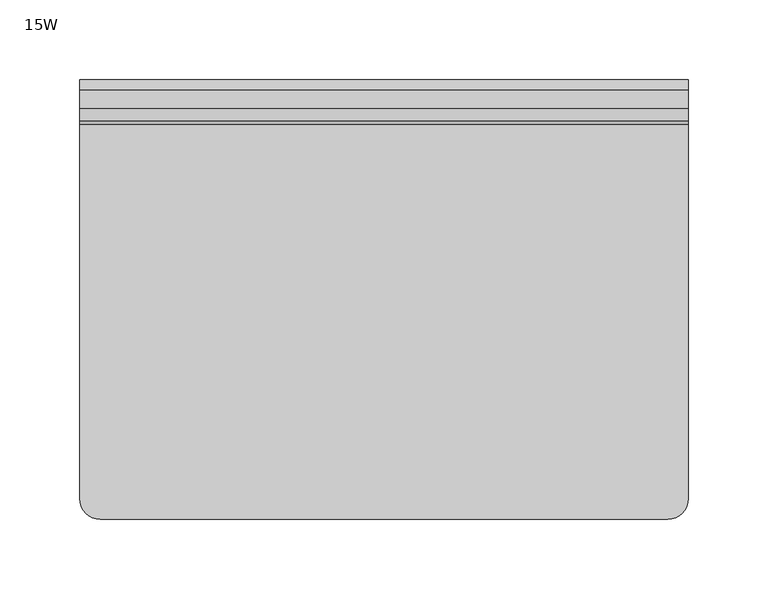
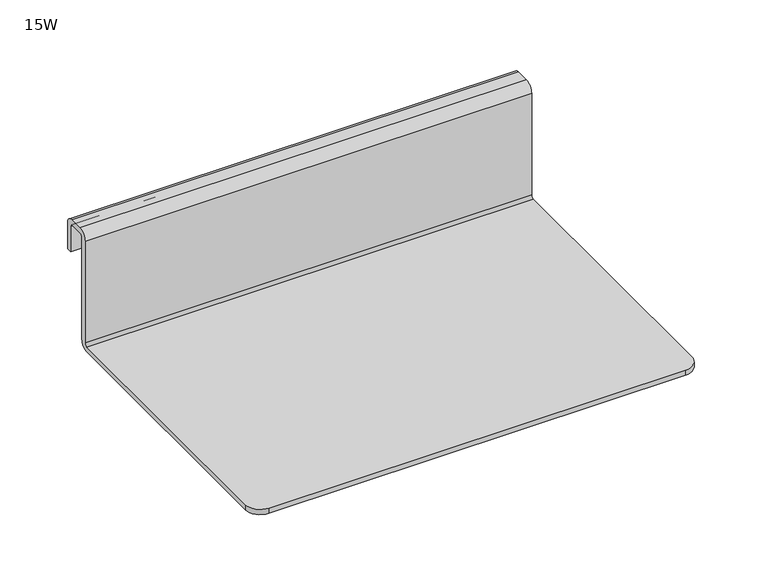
"""IFC4 building model written with IfcOpenShell, lengths in millimetres: furniture geometry, Steelcase Coalesse - Exponents - Storage - Mobile Display Board - Shelf : 15W."""

from ifc_helpers import new_model, si_unit, point, frame, frame_2d, origin, place, context, project, spatial, polyline, circle_curve, trimmed, segment, composite_curve, outline, extrude, source, transform, mapped, element, save
from ifc_brep_helpers import plane_surface, cylinder_surface, revolved_surface, advanced_brep


def furniture_15w_4930ab59(model_context):
    return source(origin(), model_context, "Body", "SolidModel", [
        advanced_brep(
        [(419.3198077, 213.6292868, 759.9172), (432.0198077, 200.9292868, 759.9172), (787.6198077, 200.9292868, 759.9172), (800.3198077, 213.6292868, 759.9172), (800.3198077, 447.8172868, 759.9172), (419.3198077, 447.8172868, 759.9172), (800.3198077, 213.6292868, 755.3452), (787.6198077, 200.9292868, 755.3452), (432.0198077, 200.9292868, 755.3452), (419.3198077, 213.6292868, 755.3452), (419.3198077, 447.4357043, 755.3452), (800.3198077, 447.4357043, 755.3452), (419.3198077, 450.3572868, 762.4572), (419.3198077, 450.3572868, 853.9888371), (419.3198077, 457.8856311, 861.5171814), (419.3198077, 469.6612868, 861.5171814), (419.3198077, 476.0112868, 855.1671814), (419.3198077, 476.0112868, 831.5451736), (419.3198077, 471.4392868, 831.5451736), (419.3198077, 471.4392868, 854.4052), (419.3198077, 468.8992868, 856.9452), (419.3198077, 457.4692867, 856.9452), (419.3198077, 454.9292867, 854.4052), (419.3198077, 454.9292867, 762.8387825), (800.3198077, 454.9292867, 762.8387825), (800.3198077, 454.9292867, 854.4052), (800.3198077, 457.4692867, 856.9452), (800.3198077, 468.8992868, 856.9452), (800.3198077, 471.4392868, 854.4052), (800.3198077, 471.4392868, 831.5451736), (800.3198077, 476.0112868, 831.5451736), (800.3198077, 476.0112868, 855.1671814), (800.3198077, 469.6612868, 861.5171814), (800.3198077, 457.8856311, 861.5171814), (800.3198077, 450.3572868, 853.9888371), (800.3198077, 450.3572868, 762.4572)],
        [
            (0, 1, circle_curve(frame((432.0198077, 213.6292868, 759.9172), z_axis=(0.0, 0.0, 1.0), x_axis=(1.0, 0.0, 0.0)), 12.7)),
            (1, 2),
            (2, 3, circle_curve(frame((787.6198077, 213.6292868, 759.9172), z_axis=(0.0, 0.0, 1.0), x_axis=(1.0, 0.0, 0.0)), 12.7)),
            (3, 4),
            (4, 5),
            (5, 0),
            (6, 7, circle_curve(frame((787.6198077, 213.6292868, 755.3452), z_axis=(0.0, 0.0, -1.0), x_axis=(1.0, 0.0, 0.0)), 12.7)),
            (7, 8),
            (8, 9, circle_curve(frame((432.0198077, 213.6292868, 755.3452), z_axis=(0.0, 0.0, -1.0), x_axis=(1.0, 0.0, 0.0)), 12.7)),
            (9, 10),
            (10, 11),
            (11, 6),
            (5, 12, circle_curve(frame((419.3198077, 447.8172868, 762.4572), z_axis=(1.0, 0.0, 0.0), x_axis=(0.0, 1.0, 0.0)), 2.54)),
            (12, 13),
            (13, 14, circle_curve(frame((419.3198077, 457.8856311, 853.9888371), z_axis=(-1.0, 0.0, 0.0), x_axis=(0.0, 1.0, 0.0)), 7.5283443)),
            (14, 15),
            (15, 16, circle_curve(frame((419.3198077, 469.6612868, 855.1671814), z_axis=(-1.0, 0.0, 0.0), x_axis=(0.0, 1.0, 0.0)), 6.35)),
            (16, 17),
            (17, 18),
            (18, 19),
            (19, 20, circle_curve(frame((419.3198077, 468.8992868, 854.4052), z_axis=(1.0, 0.0, 0.0), x_axis=(0.0, 1.0, 0.0)), 2.54)),
            (20, 21),
            (21, 22, circle_curve(frame((419.3198077, 457.4692867, 854.4052), z_axis=(1.0, 0.0, 0.0), x_axis=(0.0, 1.0, 0.0)), 2.54)),
            (22, 23),
            (23, 10, circle_curve(frame((419.3198077, 447.4357043, 762.8387825), z_axis=(-1.0, 0.0, 0.0), x_axis=(0.0, 1.0, 0.0)), 7.4935825)),
            (9, 0),
            (8, 1),
            (7, 2),
            (6, 3),
            (11, 24, circle_curve(frame((800.3198077, 447.4357043, 762.8387825), z_axis=(1.0, 0.0, 0.0), x_axis=(0.0, 1.0, 0.0)), 7.4935825)),
            (24, 25),
            (25, 26, circle_curve(frame((800.3198077, 457.4692867, 854.4052), z_axis=(-1.0, 0.0, 0.0), x_axis=(0.0, 1.0, 0.0)), 2.54)),
            (26, 27),
            (27, 28, circle_curve(frame((800.3198077, 468.8992868, 854.4052), z_axis=(-1.0, 0.0, 0.0), x_axis=(0.0, 1.0, 0.0)), 2.54)),
            (28, 29),
            (29, 30),
            (30, 31),
            (31, 32, circle_curve(frame((800.3198077, 469.6612868, 855.1671814), z_axis=(1.0, 0.0, 0.0), x_axis=(0.0, 1.0, 0.0)), 6.35)),
            (32, 33),
            (33, 34, circle_curve(frame((800.3198077, 457.8856311, 853.9888371), z_axis=(1.0, 0.0, 0.0), x_axis=(0.0, 1.0, 0.0)), 7.5283443)),
            (34, 35),
            (35, 4, circle_curve(frame((800.3198077, 447.8172868, 762.4572), z_axis=(-1.0, 0.0, 0.0), x_axis=(0.0, 1.0, 0.0)), 2.54)),
            (33, 14),
            (13, 34),
            (12, 35),
            (23, 24),
            (22, 25),
            (21, 26),
            (20, 27),
            (19, 28),
            (18, 29),
            (17, 30),
            (16, 31),
            (15, 32),
        ],
        [
            plane_surface(frame((419.3198077, 223.4607924, 759.9172), z_axis=(0.0, 0.0, 1.0), x_axis=(-1.0, 0.0, 0.0))),
            plane_surface(frame((419.3198077, 223.4607924, 755.3452), z_axis=(0.0, 0.0, -1.0), x_axis=(1.0, 0.0, 0.0))),
            plane_surface(frame((419.3198077, 223.4607924, 759.9172), z_axis=(-1.0, 0.0, 0.0), x_axis=(0.0, 0.0, -1.0))),
            cylinder_surface(frame((432.0198077, 213.6292868, 755.3452), z_axis=(0.0, 0.0, 1.0), x_axis=(1.0, 0.0, 0.0)), 12.7),
            plane_surface(frame((432.0198077, 200.9292868, 759.9172), z_axis=(0.0, -1.0, 0.0), x_axis=(0.0, 0.0, -1.0))),
            cylinder_surface(frame((787.6198077, 213.6292868, 755.3452), z_axis=(0.0, 0.0, 1.0), x_axis=(1.0, 0.0, 0.0)), 12.7),
            plane_surface(frame((800.3198077, 213.6292868, 759.9172), z_axis=(1.0, 0.0, 0.0), x_axis=(0.0, 0.0, -1.0))),
            cylinder_surface(frame((419.3198077, 457.8856311, 853.9888371), z_axis=(1.0, 0.0, 0.0), x_axis=(0.0, 1.0, 0.0)), 7.5283443),
            plane_surface(frame((800.3198077, 450.3572868, 853.9888371), z_axis=(0.0, -1.0, 0.0), x_axis=(-1.0, 0.0, 0.0))),
            revolved_surface(polyline([(419.3198077, 450.3572868, 762.4572), (800.3198077, 450.3572868, 762.4572)]), (419.3198077, 447.8172868, 762.4572), (-1.0, 0.0, 0.0)),
            cylinder_surface(frame((419.3198077, 447.4357043, 762.8387825), z_axis=(1.0, 0.0, 0.0), x_axis=(0.0, 1.0, 0.0)), 7.4935825),
            plane_surface(frame((800.3198077, 454.9292867, 762.8387825), z_axis=(0.0, 1.0, 0.0), x_axis=(-1.0, 0.0, 0.0))),
            revolved_surface(polyline([(419.3198077, 460.0092867, 854.4052), (800.3198077, 460.0092867, 854.4052)]), (419.3198077, 457.4692867, 854.4052), (-1.0, 0.0, 0.0)),
            plane_surface(frame((800.3198077, 457.4692867, 856.9452), z_axis=(0.0, 0.0, -1.0), x_axis=(-1.0, 0.0, 0.0))),
            revolved_surface(polyline([(419.3198077, 471.43928680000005, 854.4052), (800.3198077, 471.43928680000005, 854.4052)]), (419.3198077, 468.8992868, 854.4052), (-1.0, 0.0, 0.0)),
            plane_surface(frame((800.3198077, 471.4392868, 854.4052), z_axis=(0.0, -1.0, 0.0), x_axis=(-1.0, 0.0, 0.0))),
            plane_surface(frame((800.3198077, 471.4392868, 831.5451736), z_axis=(0.0, 0.0, -1.0), x_axis=(-1.0, 0.0, 0.0))),
            plane_surface(frame((800.3198077, 476.0112868, 831.5451736), z_axis=(0.0, 1.0, 0.0), x_axis=(-1.0, 0.0, 0.0))),
            cylinder_surface(frame((419.3198077, 469.6612868, 855.1671814), z_axis=(1.0, 0.0, 0.0), x_axis=(0.0, 1.0, 0.0)), 6.35),
            plane_surface(frame((800.3198077, 469.6612868, 861.5171814), z_axis=(0.0, 0.0, 1.0), x_axis=(-1.0, 0.0, 0.0))),
        ],
        [
            (0, [[1, 2, 3, 4, 5, 6]]),
            (1, [[7, 8, 9, 10, 11, 12]]),
            (2, [[-6, 13, 14, 15, 16, 17, 18, 19, 20, 21, 22, 23, 24, 25, -10, 26]]),
            (3, [[-1, -26, -9, 27]]),
            (4, [[-2, -27, -8, 28]]),
            (5, [[-3, -28, -7, 29]]),
            (6, [[-4, -29, -12, 30, 31, 32, 33, 34, 35, 36, 37, 38, 39, 40, 41, 42]]),
            (7, [[-40, 43, -15, 44]]),
            (8, [[-41, -44, -14, 45]]),
            (9, [[-42, -45, -13, -5]]),
            (10, [[-30, -11, -25, 46]]),
            (11, [[-31, -46, -24, 47]]),
            (12, [[-32, -47, -23, 48]]),
            (13, [[-33, -48, -22, 49]]),
            (14, [[-34, -49, -21, 50]]),
            (15, [[-35, -50, -20, 51]]),
            (16, [[-36, -51, -19, 52]]),
            (17, [[-37, -52, -18, 53]]),
            (18, [[-38, -53, -17, 54]]),
            (19, [[-39, -54, -16, -43]]),
        ],
    ),
        extrude(outline(composite_curve([segment(trimmed(circle_curve(frame_2d((787.1482109, 438.3657248)), 6.35), [point((780.7982109, 438.3657248))], [point((793.4982109, 438.3657248))], False, "CARTESIAN"), True, "CONTINUOUS"), segment(trimmed(circle_curve(frame_2d((787.1482109, 438.3657248)), 6.35), [point((793.4982109, 438.3657248))], [point((780.7982109, 438.3657248))], False, "CARTESIAN"), True, "CONTINUOUS")], self_intersect=False)), frame((0.0, 454.9292867, 0.0), z_axis=(0.0, 1.0, 0.0), x_axis=(0.0, 0.0, 1.0)), (0.0, 0.0, 1.0), 3.1750001),
        extrude(outline(composite_curve([segment(trimmed(circle_curve(frame_2d((787.1482109, 781.2738906)), 6.35), [point((780.7982109, 781.2738906))], [point((793.4982109, 781.2738906))], False, "CARTESIAN"), True, "CONTINUOUS"), segment(trimmed(circle_curve(frame_2d((787.1482109, 781.2738906)), 6.35), [point((793.4982109, 781.2738906))], [point((780.7982109, 781.2738906))], False, "CARTESIAN"), True, "CONTINUOUS")], self_intersect=False)), frame((0.0, 454.9292867, 0.0), z_axis=(0.0, 1.0, 0.0), x_axis=(0.0, 0.0, 1.0)), (0.0, 0.0, 1.0), 3.1750001),
    ])


if __name__ == "__main__":
    model = new_model("IFC4")
    model_context = context("Model", 3, world=origin())
    ifc_project = project(units=[si_unit("LENGTHUNIT", "METRE", prefix="MILLI")], contexts=[model_context])
    site = spatial("IfcSite", under=ifc_project)
    building = spatial("IfcBuilding", under=site)
    placement = place(None, origin())
    furniture_15w_shape = furniture_15w_4930ab59(model_context)
    element("IfcFurniture", 1, ObjectType="Steelcase Coalesse - Exponents - Storage - Mobile Display Board - Shelf : 15W", at=placement, inside=building, context=model_context, shape_type="MappedRepresentation", body=[
        mapped(furniture_15w_shape, transform((0.0, 0.0, 0.0), x_axis=(1.0, 0.0, 0.0), y_axis=(0.0, 1.0, 0.0), z_axis=(0.0, 0.0, 1.0))),
    ])
    save(model, "model.ifc")
